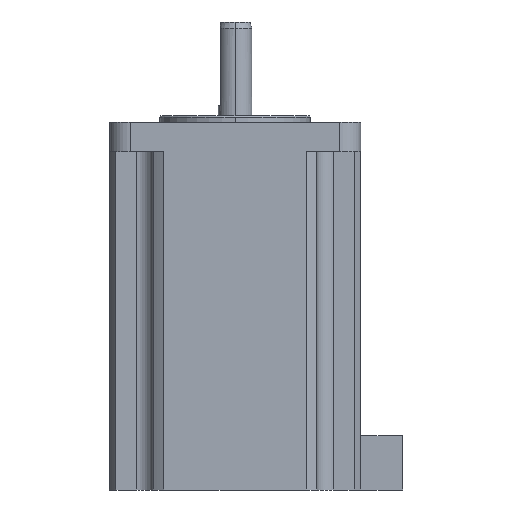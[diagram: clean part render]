
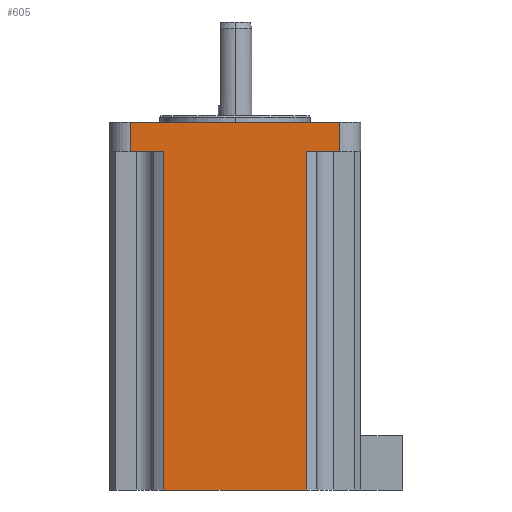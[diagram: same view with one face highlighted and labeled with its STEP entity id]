
A CAD part, left-side view. The second image highlights one B-rep face of the part: STEP entity #605.
In plain terms, the highlighted planar face has unit normal (-1, 0, 0).
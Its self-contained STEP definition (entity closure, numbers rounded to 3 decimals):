
#23 = VECTOR ( 'NONE', #494, 1000. ) ;
#25 = VERTEX_POINT ( 'NONE', #1671 ) ;
#42 = LINE ( 'NONE', #1327, #1085 ) ;
#60 = ORIENTED_EDGE ( 'NONE', *, *, #925, .F. ) ;
#66 = VECTOR ( 'NONE', #1597, 1000. ) ;
#76 = VERTEX_POINT ( 'NONE', #1796 ) ;
#86 = EDGE_CURVE ( 'NONE', #1722, #1102, #938, .T. ) ;
#97 = AXIS2_PLACEMENT_3D ( 'NONE', #724, #495, #246 ) ;
#128 = EDGE_CURVE ( 'NONE', #76, #200, #470, .T. ) ;
#200 = VERTEX_POINT ( 'NONE', #882 ) ;
#202 = CARTESIAN_POINT ( 'NONE',  ( -30., 17.037, -89.4 ) ) ;
#246 = DIRECTION ( 'NONE',  ( 0., 1., 0. ) ) ;
#374 = EDGE_CURVE ( 'NONE', #378, #25, #42, .T. ) ;
#378 = VERTEX_POINT ( 'NONE', #692 ) ;
#433 = LINE ( 'NONE', #202, #1462 ) ;
#458 = CARTESIAN_POINT ( 'NONE',  ( -30., 17.037, -89.4 ) ) ;
#470 = LINE ( 'NONE', #1666, #626 ) ;
#486 = VECTOR ( 'NONE', #1339, 1000. ) ;
#494 = DIRECTION ( 'NONE',  ( 0., 1., 0. ) ) ;
#495 = DIRECTION ( 'NONE',  ( 1., 0., 0. ) ) ;
#605 = ADVANCED_FACE ( 'NONE', ( #1917 ), #940, .F. ) ;
#626 = VECTOR ( 'NONE', #1446, 1000. ) ;
#692 = CARTESIAN_POINT ( 'NONE',  ( -30., -25., -8.6 ) ) ;
#723 = CARTESIAN_POINT ( 'NONE',  ( -30., 30., -8.6 ) ) ;
#724 = CARTESIAN_POINT ( 'NONE',  ( -30., 30., -8.6 ) ) ;
#766 = DIRECTION ( 'NONE',  ( 0., 0., 1. ) ) ;
#882 = CARTESIAN_POINT ( 'NONE',  ( -30., 25., -1.6 ) ) ;
#900 = ORIENTED_EDGE ( 'NONE', *, *, #374, .F. ) ;
#905 = ORIENTED_EDGE ( 'NONE', *, *, #936, .T. ) ;
#925 = EDGE_CURVE ( 'NONE', #926, #1130, #2037, .T. ) ;
#926 = VERTEX_POINT ( 'NONE', #1180 ) ;
#936 = EDGE_CURVE ( 'NONE', #200, #1102, #1774, .T. ) ;
#938 = LINE ( 'NONE', #723, #23 ) ;
#940 = PLANE ( 'NONE',  #97 ) ;
#986 = CARTESIAN_POINT ( 'NONE',  ( -30., -17.037, -89.4 ) ) ;
#1085 = VECTOR ( 'NONE', #1118, 1000. ) ;
#1102 = VERTEX_POINT ( 'NONE', #1984 ) ;
#1118 = DIRECTION ( 'NONE',  ( 0., 1., 0. ) ) ;
#1130 = VERTEX_POINT ( 'NONE', #458 ) ;
#1133 = ORIENTED_EDGE ( 'NONE', *, *, #1321, .T. ) ;
#1180 = CARTESIAN_POINT ( 'NONE',  ( -30., -17.037, -89.4 ) ) ;
#1321 = EDGE_CURVE ( 'NONE', #926, #25, #1840, .T. ) ;
#1327 = CARTESIAN_POINT ( 'NONE',  ( -30., 30., -8.6 ) ) ;
#1339 = DIRECTION ( 'NONE',  ( 0., 0., -1. ) ) ;
#1386 = ORIENTED_EDGE ( 'NONE', *, *, #1934, .F. ) ;
#1446 = DIRECTION ( 'NONE',  ( 0., 1., 0. ) ) ;
#1462 = VECTOR ( 'NONE', #2140, 1000. ) ;
#1465 = DIRECTION ( 'NONE',  ( 0., 0., 1. ) ) ;
#1473 = VECTOR ( 'NONE', #766, 1000. ) ;
#1489 = ORIENTED_EDGE ( 'NONE', *, *, #1943, .T. ) ;
#1514 = VECTOR ( 'NONE', #1465, 1000. ) ;
#1542 = CARTESIAN_POINT ( 'NONE',  ( -30., 25., -8.6 ) ) ;
#1597 = DIRECTION ( 'NONE',  ( 0., 1., 0. ) ) ;
#1599 = EDGE_LOOP ( 'NONE', ( #900, #1489, #1925, #905, #1813, #1386, #60, #1133 ) ) ;
#1666 = CARTESIAN_POINT ( 'NONE',  ( -30., 30., -1.6 ) ) ;
#1671 = CARTESIAN_POINT ( 'NONE',  ( -30., -17.037, -8.6 ) ) ;
#1688 = CARTESIAN_POINT ( 'NONE',  ( -30., -25., -8.6 ) ) ;
#1722 = VERTEX_POINT ( 'NONE', #2039 ) ;
#1774 = LINE ( 'NONE', #1542, #486 ) ;
#1796 = CARTESIAN_POINT ( 'NONE',  ( -30., -25., -1.6 ) ) ;
#1813 = ORIENTED_EDGE ( 'NONE', *, *, #86, .F. ) ;
#1825 = CARTESIAN_POINT ( 'NONE',  ( -30., 0., -89.4 ) ) ;
#1840 = LINE ( 'NONE', #986, #1473 ) ;
#1909 = LINE ( 'NONE', #1688, #1514 ) ;
#1917 = FACE_OUTER_BOUND ( 'NONE', #1599, .T. ) ;
#1925 = ORIENTED_EDGE ( 'NONE', *, *, #128, .T. ) ;
#1934 = EDGE_CURVE ( 'NONE', #1130, #1722, #433, .T. ) ;
#1943 = EDGE_CURVE ( 'NONE', #378, #76, #1909, .T. ) ;
#1984 = CARTESIAN_POINT ( 'NONE',  ( -30., 25., -8.6 ) ) ;
#2037 = LINE ( 'NONE', #1825, #66 ) ;
#2039 = CARTESIAN_POINT ( 'NONE',  ( -30., 17.037, -8.6 ) ) ;
#2140 = DIRECTION ( 'NONE',  ( 0., 0., 1. ) ) ;
